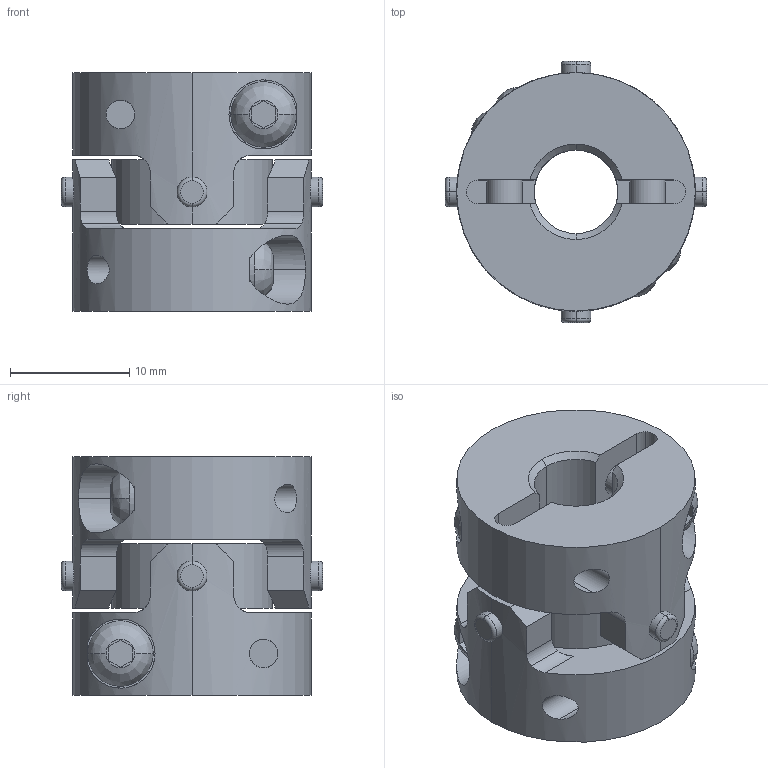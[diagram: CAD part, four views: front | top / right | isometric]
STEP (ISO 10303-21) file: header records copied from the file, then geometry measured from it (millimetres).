
FILE_DESCRIPTION((''),'2;1');
FILE_NAME('UA-20C-7×7.stp','2013-05-16T09:04:48',(''),(''),'AutoCAD STEP 2000i','AutoCAD 2000i',', , ');
FILE_SCHEMA(('CONFIG_CONTROL_DESIGN'));
Length unit declared in the file: millimetre
Products named in the file (8): UA-20C-7×7; 忣兜1; UA-2002-D07-1; BTN-M3; UA-2002-D07; UA-2002-D04-1; UA-2002-D04; UA20-SEN
Assembly tree (10 placements, depth 3):
  UA-20C-7×7
    忣兜1
    UA-2002-D07-1
      BTN-M3
    UA-2002-D07
      BTN-M3
    UA-2002-D04-1
      BTN-M3
    UA-2002-D04
      BTN-M3
    UA20-SEN
Bounding box: 21.89 x 21.89 x 20 mm (x, y, z)
Volume: 4347.9 mm3; surface area: 3829.5 mm2
Topology: 1 solids, 1 shells, 206 faces, 554 edges, 364 vertices
Faces by surface type: cylinder 96, plane 78, cone 16, bspline 8, torus 8
Entity records: 8035 total; most frequent: CARTESIAN_POINT 2679, ORIENTED_EDGE 1108, DIRECTION 1072, EDGE_CURVE 554, AXIS2_PLACEMENT_3D 413, VERTEX_POINT 364, VECTOR 246, LINE 246
